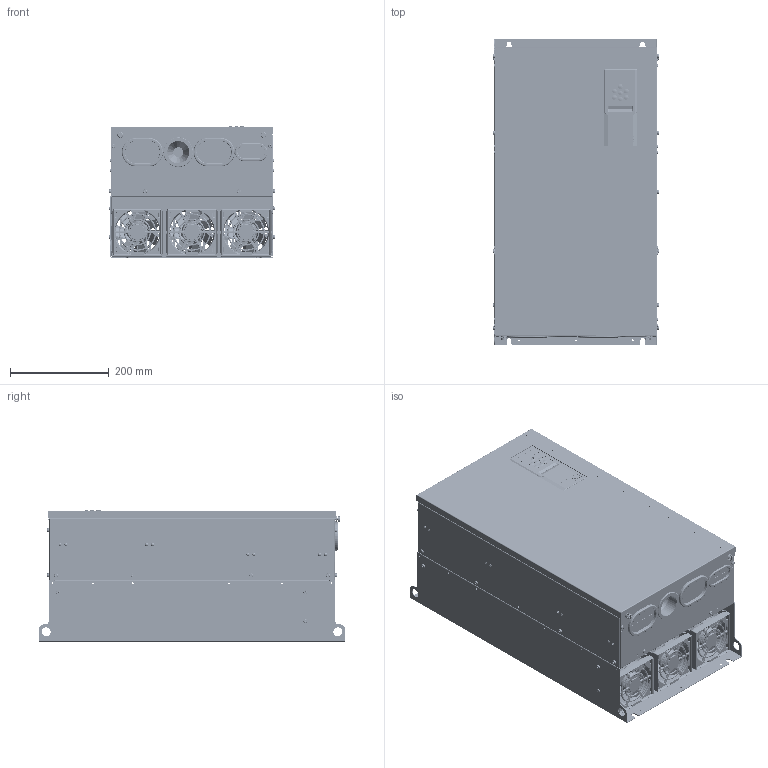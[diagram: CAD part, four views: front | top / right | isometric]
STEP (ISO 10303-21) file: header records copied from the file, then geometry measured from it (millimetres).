
FILE_DESCRIPTION((''),'2;1');
FILE_NAME('AD800-D6-DRIVE_ASM','2025-06-24T17:45:46',('wendong.luo'),(''),'CREO PARAMETRIC BY PTC INC, 2024374','CREO PARAMETRIC BY PTC INC, 2024374','');
FILE_SCHEMA(('CONFIG_CONTROL_DESIGN','GEOMETRIC_VALIDATION_PROPERTIES_MIM'));
Products named in the file (40): D6-MECHANICAL-PART; E0400071; M0204014; M0204023; M0204033; RIVETING-NUT-4_; M0202008; M0202010; M0202003; M0202001; M3-SPRING; M3-WASHER; M0202001_ASM; P_FHS_5_10; D6-FASTEN_ASM; M0100015; M0202014; M0104021; FAN9238; FAN-ASM-9238_ASM; M0104030; D6-PU_ASM; M0104033; E0100084; E0400023; E0400008; E0400009; E0400001; E0400011; E0100084_ASM; M0203006; M0203025; M0203032_00; M0104034; M0203053; CU_NEW_ASM; M0100039; M4-MOUNTING-SCREW-RIVET; M0100039_ASM; AD800-D6-DRIVE_ASM
Assembly tree (107 placements, depth 5):
  AD800-D6-DRIVE_ASM
    D6-PU_ASM
      D6-MECHANICAL-PART
      E0400071
      M0204014
      M0204023  x2
      M0204033
      D6-FASTEN_ASM
        RIVETING-NUT-4_  x20
        M0202008  x23
        M0202010  x2
        M0202003  x16
        M0202001_ASM
          M0202001
          M3-SPRING
          M3-WASHER
        P_FHS_5_10  x5
      M0100015  x2
      M0202014  x2
      FAN-ASM-9238_ASM  x3
        M0104021
        FAN9238
      M0104030
    CU_NEW_ASM
      M0104033
      E0100084_ASM
        E0100084
        E0400023
        E0400008
        E0400009  x2
        E0400001
        E0400011
      M0203006
      M0203025
      M0203032_00
      M0104034
      M0203053
    M0100039_ASM
      M0100039
      M4-MOUNTING-SCREW-RIVET  x2
Bounding box: 335.7 x 620 x 265.65 mm (x, y, z)
Volume: 2715714.4 mm3; surface area: 2790544.1 mm2
Topology: 133 solids, 173 shells, 21107 faces, 55794 edges, 35769 vertices
Faces by surface type: plane 9852, cylinder 5127, bspline 2256, extrusion 2078, cone 998, torus 658, sphere 138
Entity records: 612446 total; most frequent: CARTESIAN_POINT 162254, ORIENTED_EDGE 73684, DIRECTION 59046, EDGE_CURVE 36876, PRESENTATION_STYLE_ASSIGNMENT 31769, STYLED_ITEM 29543, CURVE_STYLE 29483, VECTOR 25036
